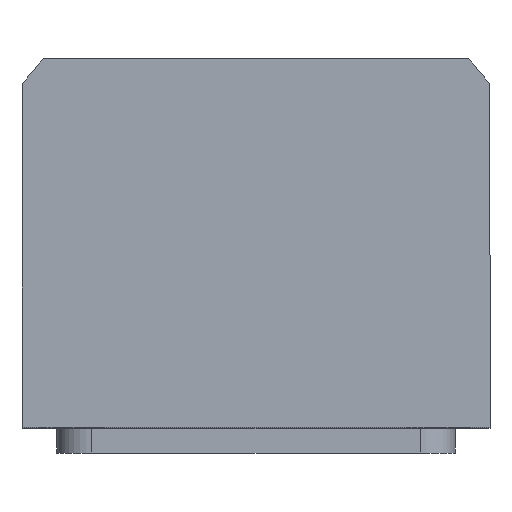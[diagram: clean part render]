
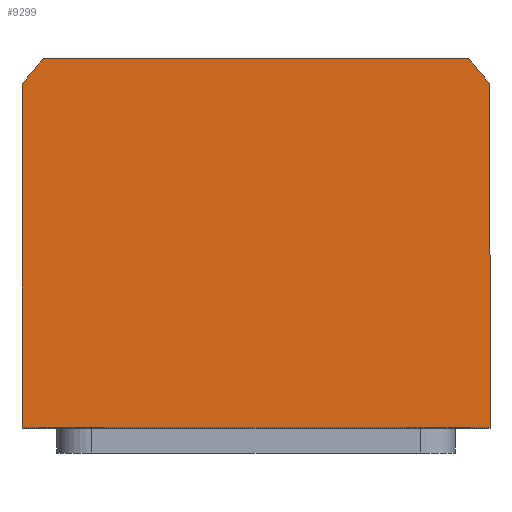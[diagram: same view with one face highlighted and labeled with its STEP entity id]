
A CAD part, top view. The second image highlights one B-rep face of the part: STEP entity #9299.
In plain terms, the highlighted planar face has unit normal (0, 0, 1).
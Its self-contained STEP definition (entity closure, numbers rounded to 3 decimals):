
#190 = CARTESIAN_POINT ( 'NONE',  ( -47., -34., 70. ) ) ;
#257 = DIRECTION ( 'NONE',  ( 0., -1., 0. ) ) ;
#294 = AXIS2_PLACEMENT_3D ( 'NONE', #3958, #9159, #9216 ) ;
#326 = EDGE_CURVE ( 'NONE', #5390, #3592, #10867, .T. ) ;
#358 = CARTESIAN_POINT ( 'NONE',  ( 47., -34., 70. ) ) ;
#554 = EDGE_CURVE ( 'NONE', #6279, #5390, #9111, .T. ) ;
#614 = EDGE_CURVE ( 'NONE', #7991, #6279, #6914, .T. ) ;
#633 = VECTOR ( 'NONE', #257, 1000. ) ;
#797 = CARTESIAN_POINT ( 'NONE',  ( -42.688, 40., 70. ) ) ;
#1282 = ORIENTED_EDGE ( 'NONE', *, *, #7918, .T. ) ;
#1356 = CARTESIAN_POINT ( 'NONE',  ( 47., 34.832, 70. ) ) ;
#1875 = VECTOR ( 'NONE', #5680, 1000. ) ;
#1889 = ORIENTED_EDGE ( 'NONE', *, *, #5868, .T. ) ;
#2622 = CARTESIAN_POINT ( 'NONE',  ( 0., 0., 70. ) ) ;
#2747 = EDGE_CURVE ( 'NONE', #3592, #3077, #3330, .T. ) ;
#2959 = CIRCLE ( 'NONE', #4180, 58.5 ) ;
#2972 = PLANE ( 'NONE',  #6773 ) ;
#3077 = VERTEX_POINT ( 'NONE', #358 ) ;
#3330 = LINE ( 'NONE', #8336, #5120 ) ;
#3526 = DIRECTION ( 'NONE',  ( 1., 0., 0. ) ) ;
#3592 = VERTEX_POINT ( 'NONE', #190 ) ;
#3613 = DIRECTION ( 'NONE',  ( 0., 0., 1. ) ) ;
#3825 = FACE_OUTER_BOUND ( 'NONE', #6273, .T. ) ;
#3958 = CARTESIAN_POINT ( 'NONE',  ( 0., 0., 70. ) ) ;
#3995 = CARTESIAN_POINT ( 'NONE',  ( -42.688, 40., 70. ) ) ;
#4180 = AXIS2_PLACEMENT_3D ( 'NONE', #2622, #3613, #3526 ) ;
#4322 = CARTESIAN_POINT ( 'NONE',  ( 47., 34.832, 70. ) ) ;
#4735 = CARTESIAN_POINT ( 'NONE',  ( 0., 0., 70. ) ) ;
#5120 = VECTOR ( 'NONE', #8307, 1000. ) ;
#5245 = ORIENTED_EDGE ( 'NONE', *, *, #614, .T. ) ;
#5324 = CARTESIAN_POINT ( 'NONE',  ( 42.688, 40., 70. ) ) ;
#5336 = CARTESIAN_POINT ( 'NONE',  ( -47., -34., 70. ) ) ;
#5390 = VERTEX_POINT ( 'NONE', #6734 ) ;
#5566 = ORIENTED_EDGE ( 'NONE', *, *, #554, .T. ) ;
#5680 = DIRECTION ( 'NONE',  ( -1., 0., 0. ) ) ;
#5868 = EDGE_CURVE ( 'NONE', #11289, #7991, #2959, .T. ) ;
#6273 = EDGE_LOOP ( 'NONE', ( #7026, #1282, #1889, #5245, #5566, #8504 ) ) ;
#6279 = VERTEX_POINT ( 'NONE', #797 ) ;
#6492 = DIRECTION ( 'NONE',  ( 1., 0., 0. ) ) ;
#6734 = CARTESIAN_POINT ( 'NONE',  ( -47., 34.832, 70. ) ) ;
#6773 = AXIS2_PLACEMENT_3D ( 'NONE', #4735, #10816, #6492 ) ;
#6914 = LINE ( 'NONE', #3995, #1875 ) ;
#7026 = ORIENTED_EDGE ( 'NONE', *, *, #2747, .T. ) ;
#7495 = LINE ( 'NONE', #4322, #9267 ) ;
#7918 = EDGE_CURVE ( 'NONE', #3077, #11289, #7495, .T. ) ;
#7991 = VERTEX_POINT ( 'NONE', #5324 ) ;
#8307 = DIRECTION ( 'NONE',  ( 1., 0., 0. ) ) ;
#8336 = CARTESIAN_POINT ( 'NONE',  ( 47., -34., 70. ) ) ;
#8504 = ORIENTED_EDGE ( 'NONE', *, *, #326, .T. ) ;
#9111 = CIRCLE ( 'NONE', #294, 58.5 ) ;
#9159 = DIRECTION ( 'NONE',  ( 0., 0., 1. ) ) ;
#9216 = DIRECTION ( 'NONE',  ( 1., 0., 0. ) ) ;
#9267 = VECTOR ( 'NONE', #9594, 1000. ) ;
#9299 = ADVANCED_FACE ( 'NONE', ( #3825 ), #2972, .T. ) ;
#9594 = DIRECTION ( 'NONE',  ( 0., 1., 0. ) ) ;
#10816 = DIRECTION ( 'NONE',  ( 0., 0., 1. ) ) ;
#10867 = LINE ( 'NONE', #5336, #633 ) ;
#11289 = VERTEX_POINT ( 'NONE', #1356 ) ;
